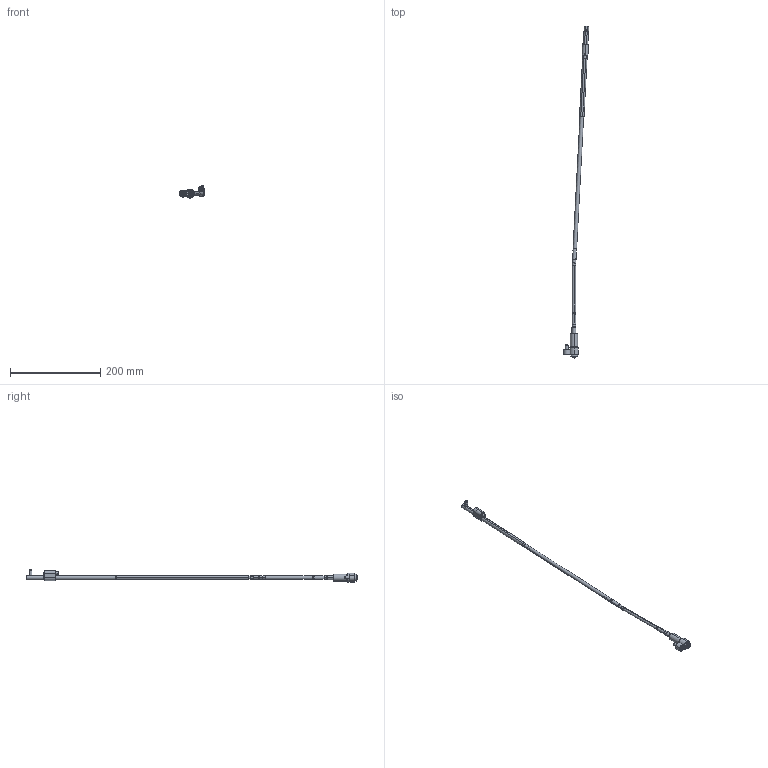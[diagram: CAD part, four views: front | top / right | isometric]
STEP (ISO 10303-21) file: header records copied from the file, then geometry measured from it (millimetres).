
FILE_DESCRIPTION (( 'STEP AP214' ), '1' );
FILE_NAME ('WL080100L-INJ 3°.STEP', '2021-03-19T15:26:32', ( '' ), ( '' ), 'SwSTEP 2.0', 'SolidWorks 2019', '' );
FILE_SCHEMA (( 'AUTOMOTIVE_DESIGN' ));
Length unit declared in the file: millimetre
Products named in the file (17): Web-WP08-1; WL080100-B_WL0800FF; 1DIN912616_DIN 912 M6 x 16 --- 16C; WL080100-C; WL080100-D; Web-WL08-F00.SLDPRT; Web-WL08-F01; 3IMAN4X2-150_con sello; Web-WL08-A1; WL080100L-INJ 3°; Web-WL08-A3; 1DIN912545_DIN 912 M5 x 50 --- 50C; 9DR2206-TOR; WL080100-E; Web-WL08-A2; WL080100-B1_WL0800FF-1; Web-WL08XX-A7_OFF-WL080100-3
Assembly tree (16 placements, depth 3):
  WL080100L-INJ 3°
    Web-WP08-1
    Web-WL08XX-A7_OFF-WL080100-3
    Web-WL08-A3
    Web-WL08-A2
    Web-WL08-A1
    WL080100-D
    WL080100-C
    WL080100-B_WL0800FF
      WL080100-B1_WL0800FF-1
      3IMAN4X2-150_con sello
    WL080100-E
    9DR2206-TOR
    Web-WL08-F00.SLDPRT
      Web-WL08-F01
      1DIN912545_DIN 912 M5 x 50 --- 50C
      1DIN912616_DIN 912 M6 x 16 --- 16C
Bounding box: 56.58 x 736.52 x 26.9 mm (x, y, z)
Volume: 57313.4 mm3; surface area: 33636 mm2
Topology: 15 solids, 15 shells, 424 faces, 888 edges, 516 vertices
Faces by surface type: plane 132, cylinder 128, cone 116, torus 48
Entity records: 13492 total; most frequent: DIRECTION 2218, CARTESIAN_POINT 2045, ORIENTED_EDGE 1756, AXIS2_PLACEMENT_3D 921, EDGE_CURVE 878, VERTEX_POINT 516, CIRCLE 476, EDGE_LOOP 468
